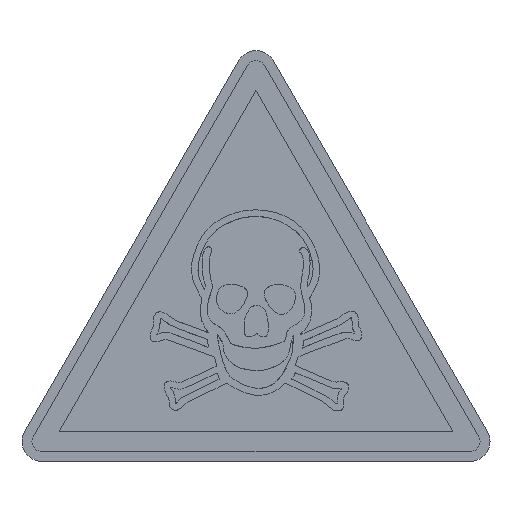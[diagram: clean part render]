
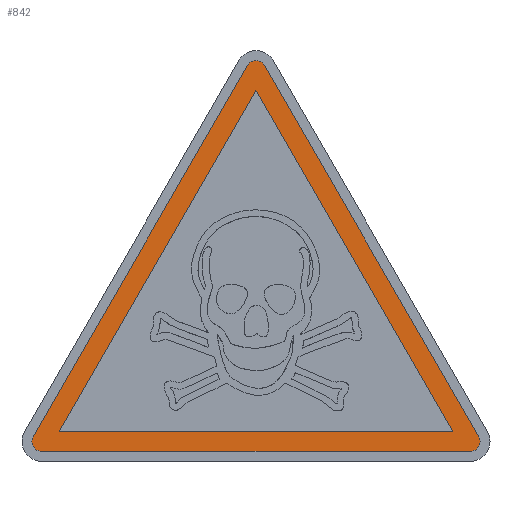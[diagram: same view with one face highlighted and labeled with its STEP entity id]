
A CAD part, top view. The second image highlights one B-rep face of the part: STEP entity #842.
In plain terms, the highlighted planar face has unit normal (0, 0, 1).
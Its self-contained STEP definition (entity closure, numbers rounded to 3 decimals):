
#19 = VERTEX_POINT ( 'NONE', #163 ) ;
#52 = CIRCLE ( 'NONE', #425, 1. ) ;
#146 = CARTESIAN_POINT ( 'NONE',  ( -21.536, 2., 0.22 ) ) ;
#160 = EDGE_CURVE ( 'NONE', #974, #2296, #52, .T. ) ;
#163 = CARTESIAN_POINT ( 'NONE',  ( 0.866, 39.801, 0.22 ) ) ;
#192 = PLANE ( 'NONE',  #1925 ) ;
#232 = DIRECTION ( 'NONE',  ( 1., 0., 0. ) ) ;
#308 = AXIS2_PLACEMENT_3D ( 'NONE', #146, #1600, #1033 ) ;
#314 = CARTESIAN_POINT ( 'NONE',  ( 0., 37.301, 0.22 ) ) ;
#320 = VECTOR ( 'NONE', #1543, 1000. ) ;
#425 = AXIS2_PLACEMENT_3D ( 'NONE', #491, #2269, #3442 ) ;
#441 = CARTESIAN_POINT ( 'NONE',  ( -19.804, 3., 0.22 ) ) ;
#443 = DIRECTION ( 'NONE',  ( -0.5, 0.866, 0. ) ) ;
#491 = CARTESIAN_POINT ( 'NONE',  ( -21.536, 2., 0.22 ) ) ;
#505 = EDGE_CURVE ( 'NONE', #3252, #3002, #1913, .T. ) ;
#509 = CARTESIAN_POINT ( 'NONE',  ( -21.536, 1., 0.22 ) ) ;
#583 = DIRECTION ( 'NONE',  ( -0.5, -0.866, 0. ) ) ;
#618 = CARTESIAN_POINT ( 'NONE',  ( 0., 37.301, 0.22 ) ) ;
#672 = VECTOR ( 'NONE', #3056, 1000. ) ;
#688 = ORIENTED_EDGE ( 'NONE', *, *, #913, .T. ) ;
#696 = VECTOR ( 'NONE', #1801, 1000. ) ;
#764 = CARTESIAN_POINT ( 'NONE',  ( 19.804, 3., 0.22 ) ) ;
#784 = DIRECTION ( 'NONE',  ( 0., 0., 1. ) ) ;
#821 = CIRCLE ( 'NONE', #2127, 1. ) ;
#842 = ADVANCED_FACE ( 'NONE', ( #3706, #1704 ), #192, .T. ) ;
#876 = ORIENTED_EDGE ( 'NONE', *, *, #160, .T. ) ;
#886 = VECTOR ( 'NONE', #2587, 1000. ) ;
#895 = EDGE_LOOP ( 'NONE', ( #1533, #3172, #3173, #876, #688, #2230, #3697 ) ) ;
#912 = EDGE_LOOP ( 'NONE', ( #3331, #3004, #1809 ) ) ;
#913 = EDGE_CURVE ( 'NONE', #2296, #1512, #2487, .T. ) ;
#952 = VERTEX_POINT ( 'NONE', #441 ) ;
#974 = VERTEX_POINT ( 'NONE', #2807 ) ;
#1033 = DIRECTION ( 'NONE',  ( 1., 0., 0. ) ) ;
#1043 = CARTESIAN_POINT ( 'NONE',  ( 0., 39.301, 0.22 ) ) ;
#1082 = DIRECTION ( 'NONE',  ( 0., 0., 1. ) ) ;
#1178 = VERTEX_POINT ( 'NONE', #2915 ) ;
#1247 = DIRECTION ( 'NONE',  ( 1., 0., 0. ) ) ;
#1287 = EDGE_CURVE ( 'NONE', #1178, #19, #1822, .T. ) ;
#1309 = EDGE_CURVE ( 'NONE', #1512, #1178, #2711, .T. ) ;
#1429 = VERTEX_POINT ( 'NONE', #3086 ) ;
#1512 = VERTEX_POINT ( 'NONE', #2205 ) ;
#1533 = ORIENTED_EDGE ( 'NONE', *, *, #1952, .T. ) ;
#1543 = DIRECTION ( 'NONE',  ( 1., 0., 0. ) ) ;
#1600 = DIRECTION ( 'NONE',  ( 0., 0., 1. ) ) ;
#1702 = CARTESIAN_POINT ( 'NONE',  ( 0., 39.301, 0.22 ) ) ;
#1704 = FACE_BOUND ( 'NONE', #912, .T. ) ;
#1801 = DIRECTION ( 'NONE',  ( -0.5, -0.866, 0. ) ) ;
#1809 = ORIENTED_EDGE ( 'NONE', *, *, #505, .F. ) ;
#1822 = LINE ( 'NONE', #2713, #672 ) ;
#1913 = LINE ( 'NONE', #3157, #2583 ) ;
#1925 = AXIS2_PLACEMENT_3D ( 'NONE', #1043, #784, #232 ) ;
#1952 = EDGE_CURVE ( 'NONE', #19, #1429, #821, .T. ) ;
#1998 = EDGE_CURVE ( 'NONE', #952, #3252, #2885, .T. ) ;
#2089 = LINE ( 'NONE', #618, #696 ) ;
#2108 = LINE ( 'NONE', #2629, #3406 ) ;
#2127 = AXIS2_PLACEMENT_3D ( 'NONE', #1702, #1082, #2883 ) ;
#2129 = CARTESIAN_POINT ( 'NONE',  ( -21.536, 1., 0.22 ) ) ;
#2134 = CARTESIAN_POINT ( 'NONE',  ( 21.536, 2., 0.22 ) ) ;
#2205 = CARTESIAN_POINT ( 'NONE',  ( 21.536, 1., 0.22 ) ) ;
#2230 = ORIENTED_EDGE ( 'NONE', *, *, #1309, .T. ) ;
#2237 = EDGE_CURVE ( 'NONE', #2479, #974, #2285, .T. ) ;
#2269 = DIRECTION ( 'NONE',  ( 0., 0., 1. ) ) ;
#2285 = CIRCLE ( 'NONE', #308, 1. ) ;
#2296 = VERTEX_POINT ( 'NONE', #509 ) ;
#2320 = CARTESIAN_POINT ( 'NONE',  ( -19.804, 3., 0.22 ) ) ;
#2323 = CARTESIAN_POINT ( 'NONE',  ( -22.402, 2.5, 0.22 ) ) ;
#2479 = VERTEX_POINT ( 'NONE', #2323 ) ;
#2487 = LINE ( 'NONE', #2129, #320 ) ;
#2509 = EDGE_CURVE ( 'NONE', #1429, #2479, #2108, .T. ) ;
#2583 = VECTOR ( 'NONE', #443, 1000. ) ;
#2587 = DIRECTION ( 'NONE',  ( 1., 0., 0. ) ) ;
#2629 = CARTESIAN_POINT ( 'NONE',  ( -0.866, 39.801, 0.22 ) ) ;
#2711 = CIRCLE ( 'NONE', #2835, 1. ) ;
#2713 = CARTESIAN_POINT ( 'NONE',  ( 22.402, 2.5, 0.22 ) ) ;
#2807 = CARTESIAN_POINT ( 'NONE',  ( -22.536, 2., 0.22 ) ) ;
#2835 = AXIS2_PLACEMENT_3D ( 'NONE', #2134, #3324, #1247 ) ;
#2883 = DIRECTION ( 'NONE',  ( 1., 0., 0. ) ) ;
#2885 = LINE ( 'NONE', #2320, #886 ) ;
#2915 = CARTESIAN_POINT ( 'NONE',  ( 22.402, 2.5, 0.22 ) ) ;
#3002 = VERTEX_POINT ( 'NONE', #314 ) ;
#3004 = ORIENTED_EDGE ( 'NONE', *, *, #3222, .F. ) ;
#3056 = DIRECTION ( 'NONE',  ( -0.5, 0.866, 0. ) ) ;
#3086 = CARTESIAN_POINT ( 'NONE',  ( -0.866, 39.801, 0.22 ) ) ;
#3157 = CARTESIAN_POINT ( 'NONE',  ( 19.804, 3., 0.22 ) ) ;
#3172 = ORIENTED_EDGE ( 'NONE', *, *, #2509, .T. ) ;
#3173 = ORIENTED_EDGE ( 'NONE', *, *, #2237, .T. ) ;
#3222 = EDGE_CURVE ( 'NONE', #3002, #952, #2089, .T. ) ;
#3252 = VERTEX_POINT ( 'NONE', #764 ) ;
#3324 = DIRECTION ( 'NONE',  ( 0., 0., 1. ) ) ;
#3331 = ORIENTED_EDGE ( 'NONE', *, *, #1998, .F. ) ;
#3406 = VECTOR ( 'NONE', #583, 1000. ) ;
#3442 = DIRECTION ( 'NONE',  ( 1., 0., 0. ) ) ;
#3697 = ORIENTED_EDGE ( 'NONE', *, *, #1287, .T. ) ;
#3706 = FACE_OUTER_BOUND ( 'NONE', #895, .T. ) ;
